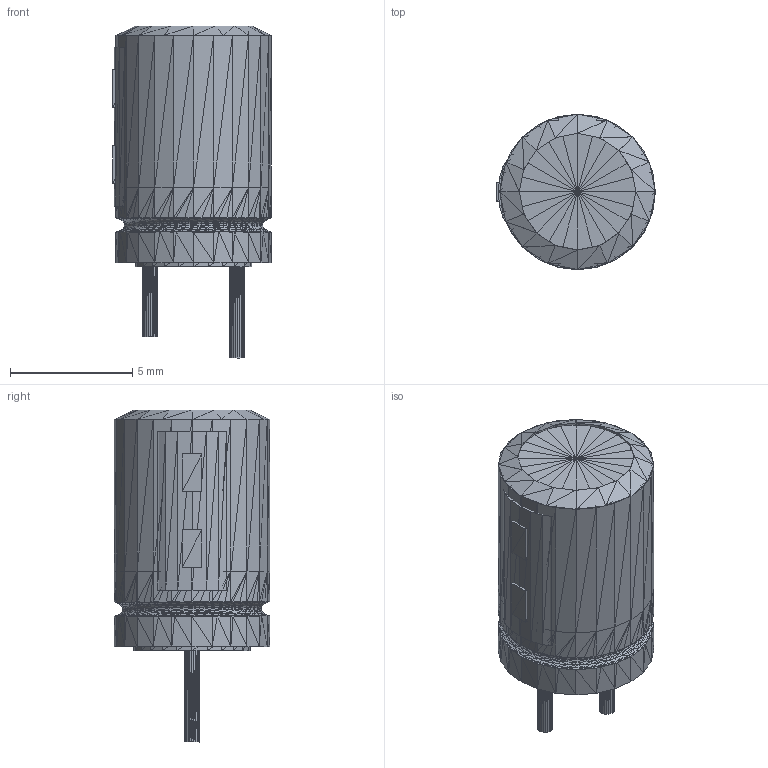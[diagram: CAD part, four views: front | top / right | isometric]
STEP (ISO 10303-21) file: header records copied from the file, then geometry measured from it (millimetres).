
FILE_DESCRIPTION(('HOOPS Exchange Step'),'2;1');
FILE_NAME('***.stp');
FILE_SCHEMA( ('AP242_MANAGED_MODEL_BASED_3D_ENGINEERING_MIM_LF {1 0 10303 442 1 1 4 }') );
Length unit declared in the file: inch
Products named in the file (11): CAPOLV250X375MIL_2; CAPOLV250X375MIL_3; CAPOLV250X375MIL_4; CAPOLV250X375MIL_5; CAPOLV250X375MIL_6; CAPOLV250X375MIL_7; CAPOLV250X375MIL_8; CAPOLV250X375MIL_9; CAPOLV250X375MIL_10; CAPOLV250X375MIL_11; CAPOLV250X375MIL
Assembly tree (10 placements, depth 2):
  CAPOLV250X375MIL
    CAPOLV250X375MIL_2
    CAPOLV250X375MIL_3
    CAPOLV250X375MIL_4
    CAPOLV250X375MIL_5
    CAPOLV250X375MIL_6
    CAPOLV250X375MIL_7
    CAPOLV250X375MIL_8
    CAPOLV250X375MIL_9
    CAPOLV250X375MIL_10
    CAPOLV250X375MIL_11
Bounding box: 6.48 x 6.35 x 13.56 mm (x, y, z)
Volume: 330.3 mm3; surface area: 517.4 mm2
Topology: 10 solids, 10 shells, 2004 faces, 3006 edges, 1020 vertices
Faces by surface type: plane 2004
Entity records: 39590 total; most frequent: DIRECTION 7058, CARTESIAN_POINT 6052, ORIENTED_EDGE 6012, VECTOR 3006, LINE 3006, EDGE_CURVE 3006, AXIS2_PLACEMENT_3D 2026, PLANE 2004
